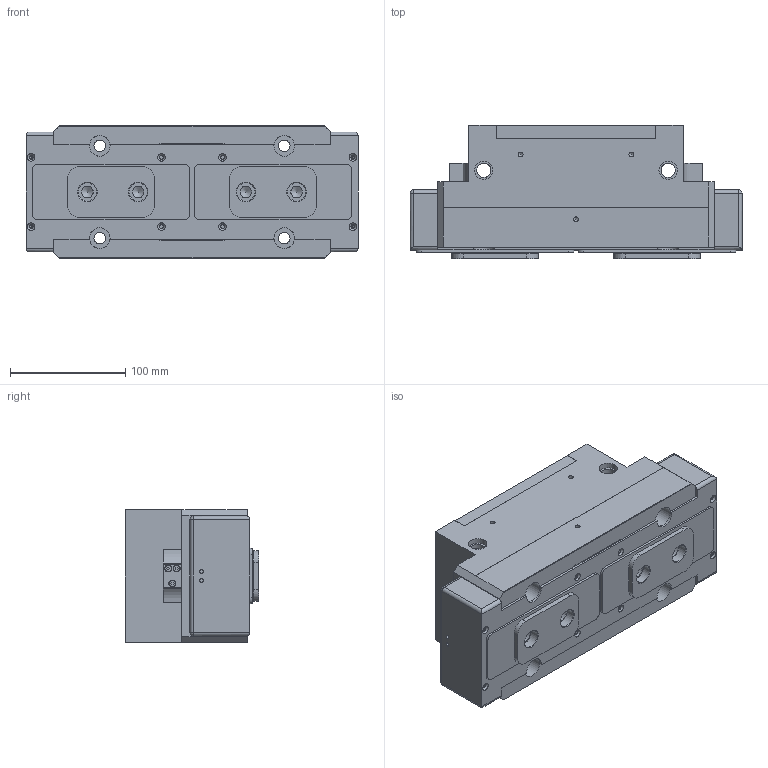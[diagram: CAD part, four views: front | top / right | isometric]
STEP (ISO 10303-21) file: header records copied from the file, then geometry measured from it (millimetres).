
FILE_DESCRIPTION(/* description */ ('STEP AP214'),/* implementation_level */ '2;1');
FILE_NAME(/* name */ 'C:\Users\18551\Desktop\FPT-240A-1-SD.stp',/* time_stamp */ '2020-05-26T17:24:06+08:00',/* author */ ('18551'),/* organization */ ('微软中国'),/* preprocessor_version */ 'ST-DEVELOPER v16.13',/* originating_system */ 'Autodesk Inventor 2018',/* authorisation */ '');
FILE_SCHEMA (('AUTOMOTIVE_DESIGN { 1 0 10303 214 3 1 1 }'));
Length unit declared in the file: millimetre
Products named in the file (9): FPT-240A-1-SD; FWN-240A-1-SD-04; FWN-240A-1-SD-05; FWN-240A-1-SD-06; FPT240-1, 00; FPT 240; FPT1240; FPTNHS KL03; FPT 240-1
Assembly tree (12 placements, depth 3):
  FPT-240A-1-SD
    FWN-240A-1-SD-04
    FWN-240A-1-SD-05  x2
    FWN-240A-1-SD-06  x2
    FPT240-1, 00
      FPT 240
      FPT1240
      FPTNHS KL03  x2
      FPT 240-1  x2
Bounding box: 288 x 115.5 x 115 mm (x, y, z)
Volume: 2638314.6 mm3; surface area: 378573.6 mm2
Topology: 11 solids, 11 shells, 652 faces, 1715 edges, 1130 vertices
Faces by surface type: plane 430, cylinder 174, cone 42, sphere 6
Full cylindrical faces by diameter (mm): 2.459 x8, 2.5 x4, 3.3 x4, 3.4 x8, 4.134 x6, 4.2 x4, 5.5 x6, 6 x6, 8.2 x2, 8.566 x2, 10.106 x8, 12.5 x4, 16 x12, 18 x6, 19 x2
Entity records: 16753 total; most frequent: CARTESIAN_POINT 3170, DIRECTION 2689, ORIENTED_EDGE 2586, EDGE_CURVE 1293, LINE 983, VECTOR 983, VERTEX_POINT 910, AXIS2_PLACEMENT_3D 853
